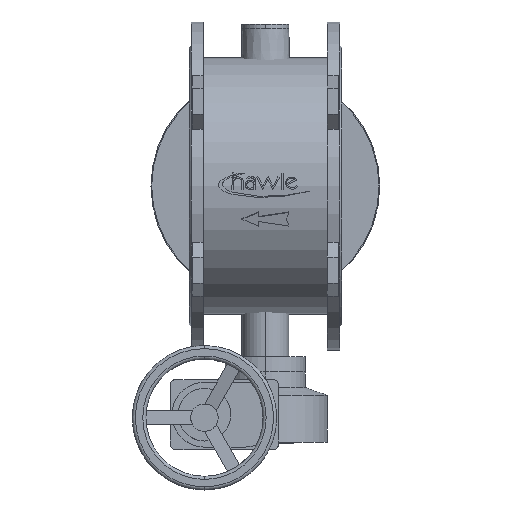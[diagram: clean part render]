
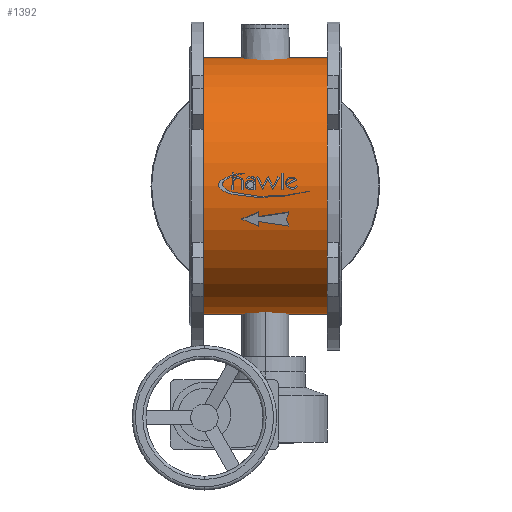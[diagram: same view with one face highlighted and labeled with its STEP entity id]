
A CAD part, top view. The second image highlights one B-rep face of the part: STEP entity #1392.
In plain terms, the highlighted cylindrical face has radius 329 mm (diameter 658 mm), a partial arc.
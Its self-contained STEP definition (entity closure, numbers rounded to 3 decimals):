
#1392=ADVANCED_FACE('',(#2810),#2811,.T.);
#2810=FACE_OUTER_BOUND('',#4637,.T.);
#2811=CYLINDRICAL_SURFACE('',#4638,329.0);
#4637=EDGE_LOOP('',(#7136,#7137,#7138,#7139));
#4638=AXIS2_PLACEMENT_3D('',#7140,#7141,#7142);
#7136=ORIENTED_EDGE('',*,*,#10089,.T.);
#7137=ORIENTED_EDGE('',*,*,#10282,.T.);
#7138=ORIENTED_EDGE('',*,*,#10091,.T.);
#7139=ORIENTED_EDGE('',*,*,#10395,.T.);
#7140=CARTESIAN_POINT('',(-354.0,0.,0.0));
#7141=DIRECTION('',(1.0,0.,0.0));
#7142=DIRECTION('',(0.,-1.0,0.0));
#10089=EDGE_CURVE('',#12040,#12041,#12042,.T.);
#10091=EDGE_CURVE('',#12045,#12043,#12046,.T.);
#10282=EDGE_CURVE('',#12041,#12045,#12342,.T.);
#10395=EDGE_CURVE('',#12043,#12040,#12501,.T.);
#12040=VERTEX_POINT('',#14539);
#12041=VERTEX_POINT('',#14540);
#12042=LINE('',#14541,#14542);
#12043=VERTEX_POINT('',#14543);
#12045=VERTEX_POINT('',#14545);
#12046=LINE('',#14546,#14547);
#12342=CIRCLE('',#14917,329.0);
#12501=CIRCLE('',#15124,329.0);
#14539=CARTESIAN_POINT('',(-354.0,-329.0,0.0));
#14540=CARTESIAN_POINT('',(-36.0,-329.0,0.0));
#14541=CARTESIAN_POINT('',(-354.0,-329.0,0.));
#14542=VECTOR('',#16988,1.0);
#14543=CARTESIAN_POINT('',(-354.0,329.0,0.));
#14545=CARTESIAN_POINT('',(-36.0,329.0,0.));
#14546=CARTESIAN_POINT('',(-354.0,329.0,0.));
#14547=VECTOR('',#16992,1.0);
#14917=AXIS2_PLACEMENT_3D('',#17292,#17293,#17294);
#15124=AXIS2_PLACEMENT_3D('',#17424,#17425,#17426);
#16988=DIRECTION('',(1.0,0.,0.0));
#16992=DIRECTION('',(-1.0,0.,-0.0));
#17292=CARTESIAN_POINT('',(-36.0,0.,0.0));
#17293=DIRECTION('',(-1.0,0.,0.0));
#17294=DIRECTION('',(0.,-1.0,0.0));
#17424=CARTESIAN_POINT('',(-354.0,0.,0.0));
#17425=DIRECTION('',(1.0,0.,0.0));
#17426=DIRECTION('',(0.,-1.0,0.0));
